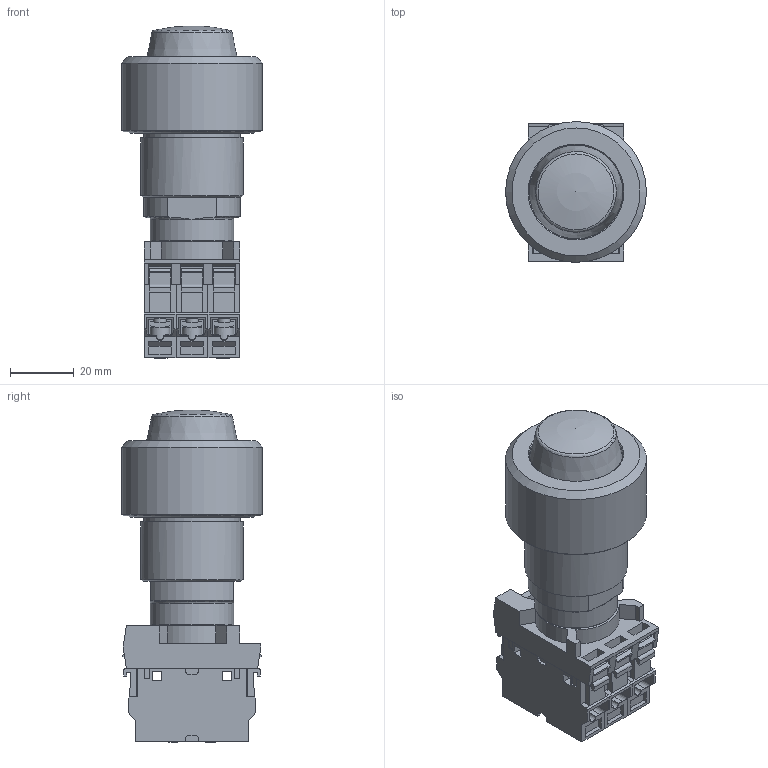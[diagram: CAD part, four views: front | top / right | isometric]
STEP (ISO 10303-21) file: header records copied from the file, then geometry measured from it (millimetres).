
FILE_DESCRIPTION((''),'2;1');
FILE_NAME('\\192.168.5.25\cortem_klient\INVENTOR БАЗА МОДЕЛЕЙ\Актуальная база моделей для отдела продаж\Элементы управления и индикации\КГВ06\КГВ06Б_3M.stp','2019-04-09T16:06:39',('A.S.Kozlov'),(''),'Autodesk Inventor 2012','Autodesk Inventor 2012','');
FILE_SCHEMA(('CONFIG_CONTROL_DESIGN'));
Length unit declared in the file: millimetre
Products named in the file (1): КГВ06Б_3M (М-0428I_ABB_3I)_Внешний контур_1
Bounding box: 44 x 44 x 103.79 mm (x, y, z)
Surface area: 25792.6 mm2 (no closed solid volume)
Topology: 0 solids, 27 shells, 488 faces, 1993 edges, 1464 vertices
Faces by surface type: plane 401, cylinder 54, cone 29, torus 3, sphere 1
Full cylindrical faces by diameter (mm): 4 x6, 6.2 x6, 6.5 x6, 26 x1, 29.3 x1, 30.3 x1, 32 x1, 44 x1
Entity records: 21085 total; most frequent: CARTESIAN_POINT 4558, ORIENTED_EDGE 3081, DIRECTION 3073, EDGE_CURVE 1936, VECTOR 1517, LINE 1517, VERTEX_POINT 1441, AXIS2_PLACEMENT_3D 778
